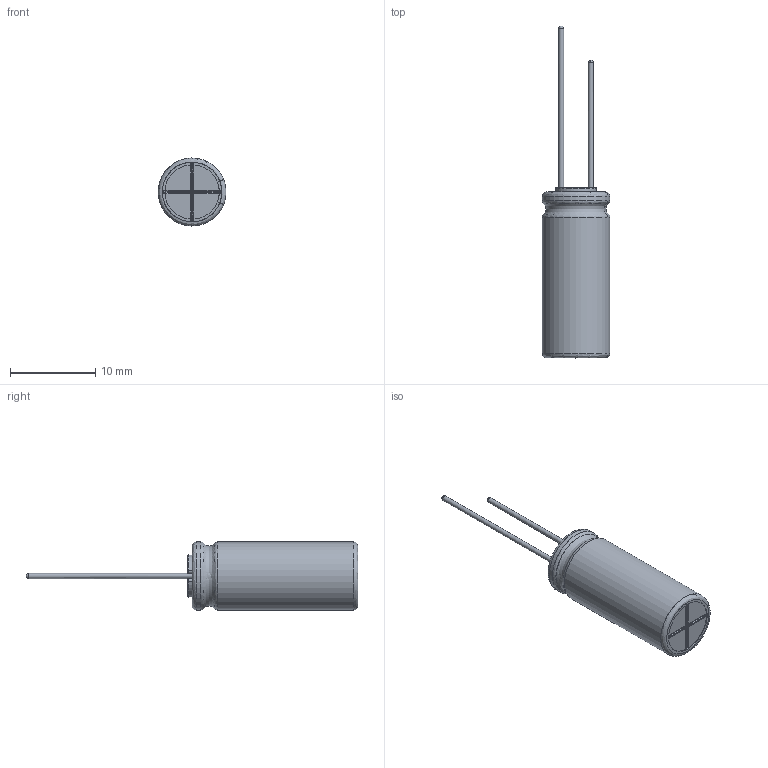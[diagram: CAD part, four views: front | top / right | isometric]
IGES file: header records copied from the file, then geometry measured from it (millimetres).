
Start section: JAMA-IS VERSION  1.0
Bounding box: 7.99 x 39 x 8 mm (x, y, z)
Surface area: 1675.7 mm2 (no closed solid volume)
Topology: 0 solids, 0 shells, 115 faces, 1347 edges, 1328 vertices
Faces by surface type: bspline 115
